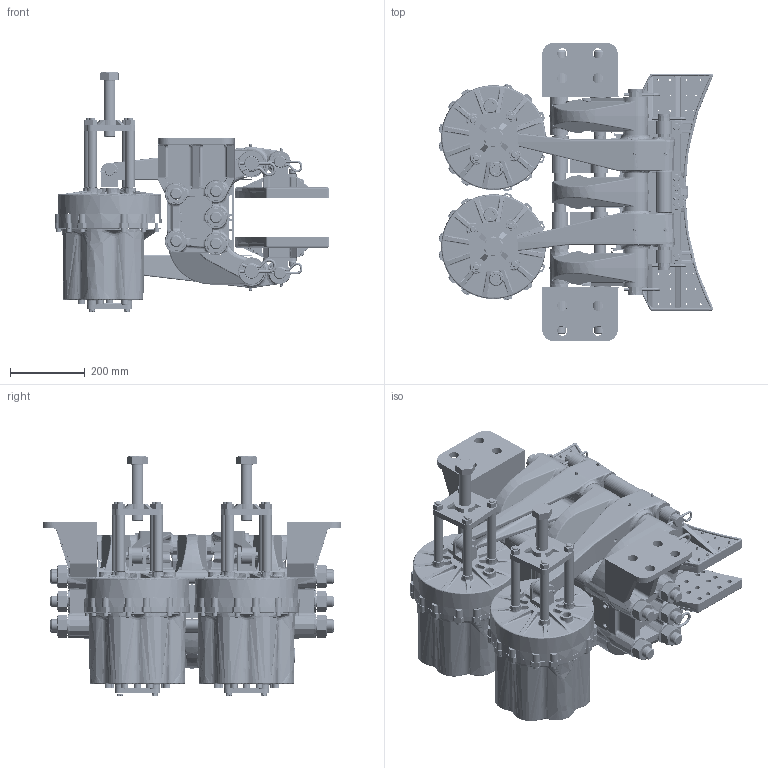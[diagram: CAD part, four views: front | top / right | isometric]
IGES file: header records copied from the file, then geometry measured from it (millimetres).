
Start section: SolidWorks IGES file using analytic representation for surfaces
Global section: file name: S:\Released Documents\CAD models\5030-SAW-LH-R_revA.IGS; native system: SolidWorks 2021; preprocessor: SolidWorks 2021; author: heikoe; date: 211027.094032; units: inch
Bounding box: 735 x 800.26 x 640.53 mm (x, y, z)
Surface area: 4640783 mm2 (no closed solid volume)
Topology: 0 solids, 0 shells, 5532 faces, 89876 edges, 89714 vertices
Faces by surface type: bspline 2859, revolution 2673
